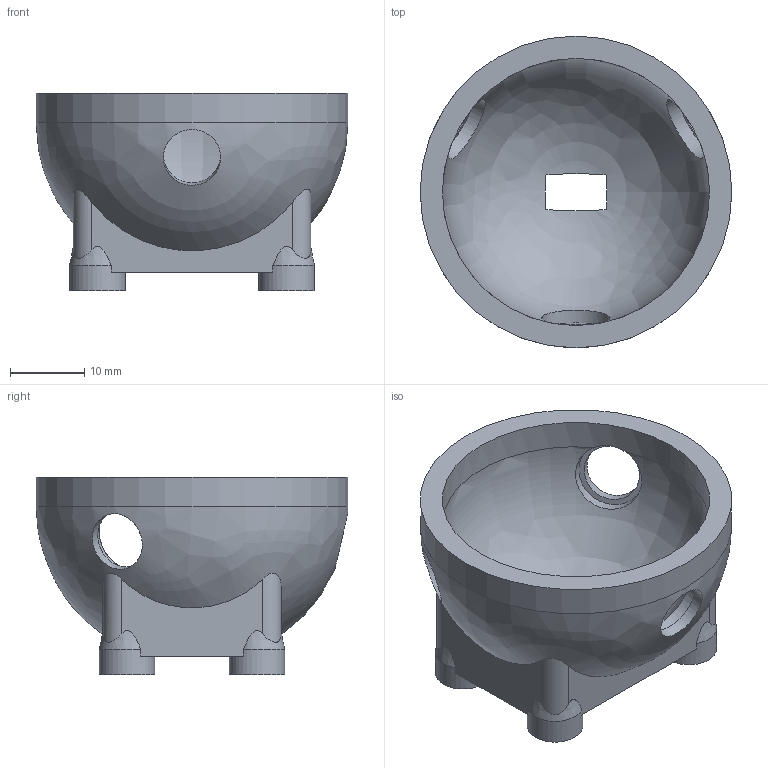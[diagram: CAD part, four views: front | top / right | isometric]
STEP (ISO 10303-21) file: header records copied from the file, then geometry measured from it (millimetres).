
FILE_DESCRIPTION(('Open CASCADE Model'),'2;1');
FILE_NAME('Open CASCADE Shape Model','2026-05-31T19:42:51',('Author'),( 'Open CASCADE'),'Open CASCADE STEP processor 7.6','Open CASCADE 7.6' ,'Unknown');
FILE_SCHEMA(('AP242_MANAGED_MODEL_BASED_3D_ENGINEERING_MIM_LF. {1 0 10303 442 1 1 4 }'));
Length unit declared in the file: millimetre
Products named in the file (1): Open CASCADE STEP translator 7.6 6
Bounding box: 42 x 42 x 26.6 mm (x, y, z)
Volume: 10219.7 mm3; surface area: 7201 mm2
Topology: 1 solids, 1 shells, 56 faces, 147 edges, 98 vertices
Faces by surface type: cylinder 24, plane 22, bspline 4, cone 4, revolution 2
Full cylindrical faces by diameter (mm): 3.5 x4, 7.5 x4, 7.7 x3, 9.2 x3, 36 x1, 42 x1
Entity records: 8499 total; most frequent: CARTESIAN_POINT 5672, DIRECTION 486, ORIENTED_EDGE 294, PCURVE 294, DEFINITIONAL_REPRESENTATION 294, LINE 236, VECTOR 236, EDGE_CURVE 147
